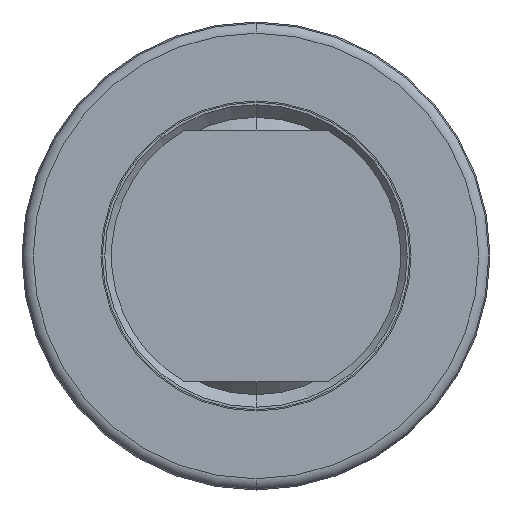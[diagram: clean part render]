
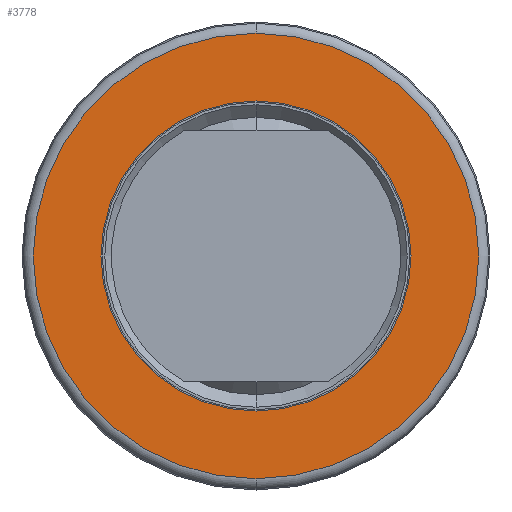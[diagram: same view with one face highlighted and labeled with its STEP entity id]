
A CAD part, left-side view. The second image highlights one B-rep face of the part: STEP entity #3778.
In plain terms, the highlighted planar face has unit normal (-1, 0, 0).
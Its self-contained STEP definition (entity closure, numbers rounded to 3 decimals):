
#22 = EDGE_CURVE ( 'NONE', #1089, #993, #7145, .T. ) ;
#993 = VERTEX_POINT ( 'NONE', #5761 ) ;
#1029 = VERTEX_POINT ( 'NONE', #5783 ) ;
#1089 = VERTEX_POINT ( 'NONE', #5806 ) ;
#1599 = VERTEX_POINT ( 'NONE', #5886 ) ;
#1760 = ORIENTED_EDGE ( 'NONE', *, *, #3667, .F. ) ;
#2562 = CIRCLE ( 'NONE', #2565, 17.71 ) ;
#2565 = AXIS2_PLACEMENT_3D ( 'NONE', #6508, #6509, #6510 ) ;
#2628 = CIRCLE ( 'NONE', #2642, 12.325 ) ;
#2642 = AXIS2_PLACEMENT_3D ( 'NONE', #6627, #6628, #6629 ) ;
#2925 = AXIS2_PLACEMENT_3D ( 'NONE', #6929, #6927, #6934 ) ;
#3667 = EDGE_CURVE ( 'NONE', #993, #1089, #2562, .T. ) ;
#3706 = EDGE_CURVE ( 'NONE', #1029, #1599, #2628, .T. ) ;
#3778 = ADVANCED_FACE ( 'NONE', ( #6925, #6931 ), #6932, .T. ) ;
#5761 = CARTESIAN_POINT ( 'NONE',  ( -50.54, 0., 17.71 ) ) ;
#5783 = CARTESIAN_POINT ( 'NONE',  ( -50.54, 0., 12.325 ) ) ;
#5806 = CARTESIAN_POINT ( 'NONE',  ( -50.54, 0., -17.71 ) ) ;
#5886 = CARTESIAN_POINT ( 'NONE',  ( -50.54, 0., -12.325 ) ) ;
#6508 = CARTESIAN_POINT ( 'NONE',  ( -50.54, 0., 0. ) ) ;
#6509 = DIRECTION ( 'NONE',  ( 1., 0., 0. ) ) ;
#6510 = DIRECTION ( 'NONE',  ( 0., 0., -1. ) ) ;
#6627 = CARTESIAN_POINT ( 'NONE',  ( -50.54, 0., 0. ) ) ;
#6628 = DIRECTION ( 'NONE',  ( 1., 0., 0. ) ) ;
#6629 = DIRECTION ( 'NONE',  ( 0., 0., -1. ) ) ;
#6925 = FACE_BOUND ( 'NONE', #9147, .T. ) ;
#6927 = DIRECTION ( 'NONE',  ( -1., 0., 0. ) ) ;
#6929 = CARTESIAN_POINT ( 'NONE',  ( -50.54, 17.71, 0. ) ) ;
#6931 = FACE_OUTER_BOUND ( 'NONE', #9085, .T. ) ;
#6932 = PLANE ( 'NONE',  #2925 ) ;
#6934 = DIRECTION ( 'NONE',  ( 0., 0., 1. ) ) ;
#7123 = EDGE_CURVE ( 'NONE', #1599, #1029, #10173, .T. ) ;
#7145 = CIRCLE ( 'NONE', #7171, 17.71 ) ;
#7171 = AXIS2_PLACEMENT_3D ( 'NONE', #9095, #9096, #9092 ) ;
#7881 = CARTESIAN_POINT ( 'NONE',  ( -50.54, 0., 0. ) ) ;
#7882 = DIRECTION ( 'NONE',  ( 1., 0., 0. ) ) ;
#7883 = DIRECTION ( 'NONE',  ( 0., 0., -1. ) ) ;
#8214 = ORIENTED_EDGE ( 'NONE', *, *, #3706, .T. ) ;
#8219 = ORIENTED_EDGE ( 'NONE', *, *, #22, .F. ) ;
#8988 = ORIENTED_EDGE ( 'NONE', *, *, #7123, .T. ) ;
#9085 = EDGE_LOOP ( 'NONE', ( #8219, #1760 ) ) ;
#9092 = DIRECTION ( 'NONE',  ( 0., 0., -1. ) ) ;
#9095 = CARTESIAN_POINT ( 'NONE',  ( -50.54, 0., 0. ) ) ;
#9096 = DIRECTION ( 'NONE',  ( 1., 0., 0. ) ) ;
#9147 = EDGE_LOOP ( 'NONE', ( #8988, #8214 ) ) ;
#10173 = CIRCLE ( 'NONE', #10176, 12.325 ) ;
#10176 = AXIS2_PLACEMENT_3D ( 'NONE', #7881, #7882, #7883 ) ;
